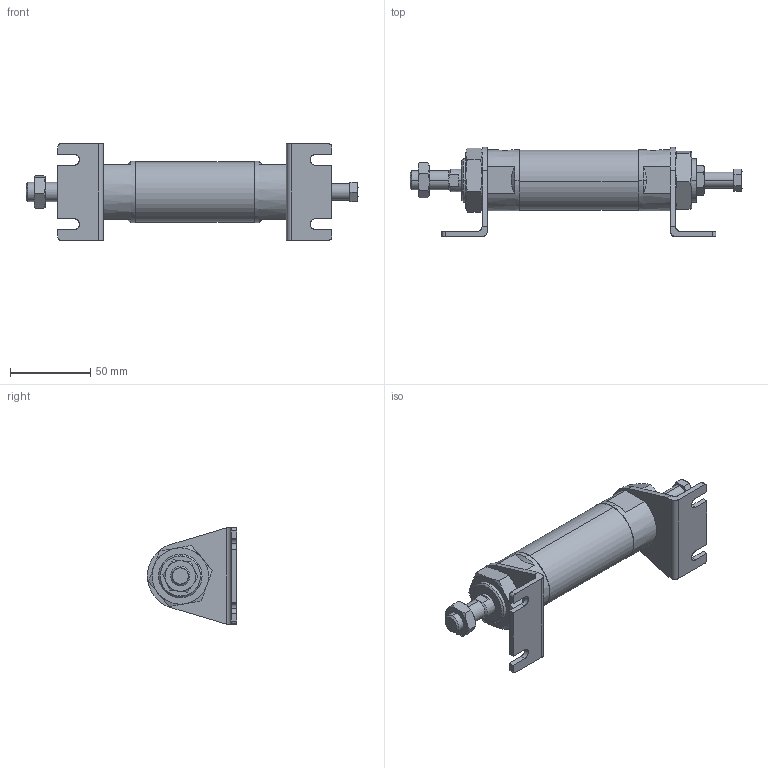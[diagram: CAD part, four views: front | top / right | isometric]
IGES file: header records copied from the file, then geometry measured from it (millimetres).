
Start section: SolidWorks IGES file using analytic representation for surfaces
Global section: file name: C:\Users\Toshiba\Desktop\JGA2-32-25-L.IGS; native system: SolidWorks 2014; preprocessor: SolidWorks 2014; author: Toshiba; date: 160420.130757; units: millimetre
Bounding box: 206.5 x 55.5 x 60 mm (x, y, z)
Surface area: 48882.3 mm2 (no closed solid volume)
Topology: 0 solids, 0 shells, 200 faces, 3262 edges, 3258 vertices
Faces by surface type: bspline 134, revolution 66
